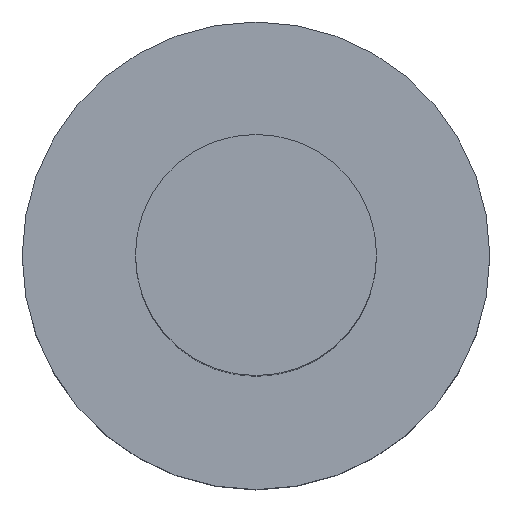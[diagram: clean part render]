
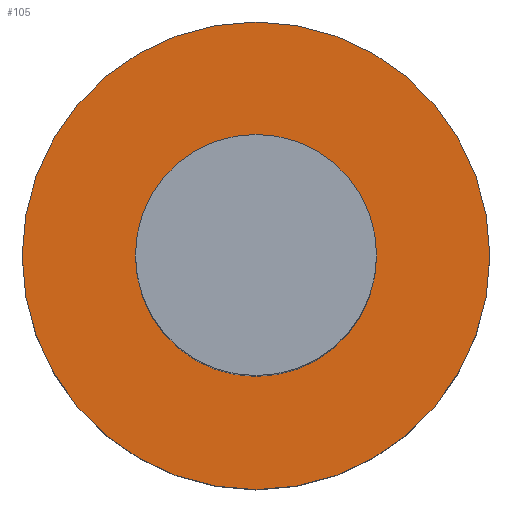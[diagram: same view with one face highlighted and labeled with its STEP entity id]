
A CAD part, top view. The second image highlights one B-rep face of the part: STEP entity #105.
In plain terms, the highlighted planar face has unit normal (0, 0, 1).
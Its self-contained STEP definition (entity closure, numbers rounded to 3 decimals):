
#21 = EDGE_CURVE('',#22,#22,#24,.T.);
#22 = VERTEX_POINT('',#23);
#23 = CARTESIAN_POINT('',(-22.1,-36.,7.76));
#24 = SURFACE_CURVE('',#25,(#30,#42),.PCURVE_S1.);
#25 = CIRCLE('',#26,1.9);
#26 = AXIS2_PLACEMENT_3D('',#27,#28,#29);
#27 = CARTESIAN_POINT('',(-24.,-36.,7.76));
#28 = DIRECTION('',(0.,0.,1.));
#29 = DIRECTION('',(1.,0.,-0.));
#30 = PCURVE('',#31,#36);
#31 = CYLINDRICAL_SURFACE('',#32,1.9);
#32 = AXIS2_PLACEMENT_3D('',#33,#34,#35);
#33 = CARTESIAN_POINT('',(-24.,-36.,6.26));
#34 = DIRECTION('',(0.,0.,1.));
#35 = DIRECTION('',(1.,0.,-0.));
#36 = DEFINITIONAL_REPRESENTATION('',(#37),#41);
#37 = LINE('',#38,#39);
#38 = CARTESIAN_POINT('',(0.,1.5));
#39 = VECTOR('',#40,1.);
#40 = DIRECTION('',(1.,0.));
#41 = ( GEOMETRIC_REPRESENTATION_CONTEXT(2) 
PARAMETRIC_REPRESENTATION_CONTEXT() REPRESENTATION_CONTEXT('2D SPACE',''
  ) );
#42 = PCURVE('',#43,#48);
#43 = PLANE('',#44);
#44 = AXIS2_PLACEMENT_3D('',#45,#46,#47);
#45 = CARTESIAN_POINT('',(-24.,-36.,7.76));
#46 = DIRECTION('',(0.,0.,1.));
#47 = DIRECTION('',(1.,0.,-0.));
#48 = DEFINITIONAL_REPRESENTATION('',(#49),#53);
#49 = CIRCLE('',#50,1.9);
#50 = AXIS2_PLACEMENT_2D('',#51,#52);
#51 = CARTESIAN_POINT('',(0.,0.));
#52 = DIRECTION('',(1.,0.));
#53 = ( GEOMETRIC_REPRESENTATION_CONTEXT(2) 
PARAMETRIC_REPRESENTATION_CONTEXT() REPRESENTATION_CONTEXT('2D SPACE',''
  ) );
#105 = ADVANCED_FACE('',(#106,#109),#43,.T.);
#106 = FACE_BOUND('',#107,.T.);
#107 = EDGE_LOOP('',(#108));
#108 = ORIENTED_EDGE('',*,*,#21,.T.);
#109 = FACE_BOUND('',#110,.T.);
#110 = EDGE_LOOP('',(#111));
#111 = ORIENTED_EDGE('',*,*,#112,.F.);
#112 = EDGE_CURVE('',#113,#113,#115,.T.);
#113 = VERTEX_POINT('',#114);
#114 = CARTESIAN_POINT('',(-23.02,-36.,7.76));
#115 = SURFACE_CURVE('',#116,(#121,#128),.PCURVE_S1.);
#116 = CIRCLE('',#117,0.98);
#117 = AXIS2_PLACEMENT_3D('',#118,#119,#120);
#118 = CARTESIAN_POINT('',(-24.,-36.,7.76));
#119 = DIRECTION('',(0.,0.,1.));
#120 = DIRECTION('',(1.,0.,-0.));
#121 = PCURVE('',#43,#122);
#122 = DEFINITIONAL_REPRESENTATION('',(#123),#127);
#123 = CIRCLE('',#124,0.98);
#124 = AXIS2_PLACEMENT_2D('',#125,#126);
#125 = CARTESIAN_POINT('',(0.,0.));
#126 = DIRECTION('',(1.,0.));
#127 = ( GEOMETRIC_REPRESENTATION_CONTEXT(2) 
PARAMETRIC_REPRESENTATION_CONTEXT() REPRESENTATION_CONTEXT('2D SPACE',''
  ) );
#128 = PCURVE('',#129,#134);
#129 = CYLINDRICAL_SURFACE('',#130,0.98);
#130 = AXIS2_PLACEMENT_3D('',#131,#132,#133);
#131 = CARTESIAN_POINT('',(-24.,-36.,7.76));
#132 = DIRECTION('',(0.,0.,1.));
#133 = DIRECTION('',(1.,0.,-0.));
#134 = DEFINITIONAL_REPRESENTATION('',(#135),#139);
#135 = LINE('',#136,#137);
#136 = CARTESIAN_POINT('',(0.,0.));
#137 = VECTOR('',#138,1.);
#138 = DIRECTION('',(1.,0.));
#139 = ( GEOMETRIC_REPRESENTATION_CONTEXT(2) 
PARAMETRIC_REPRESENTATION_CONTEXT() REPRESENTATION_CONTEXT('2D SPACE',''
  ) );
